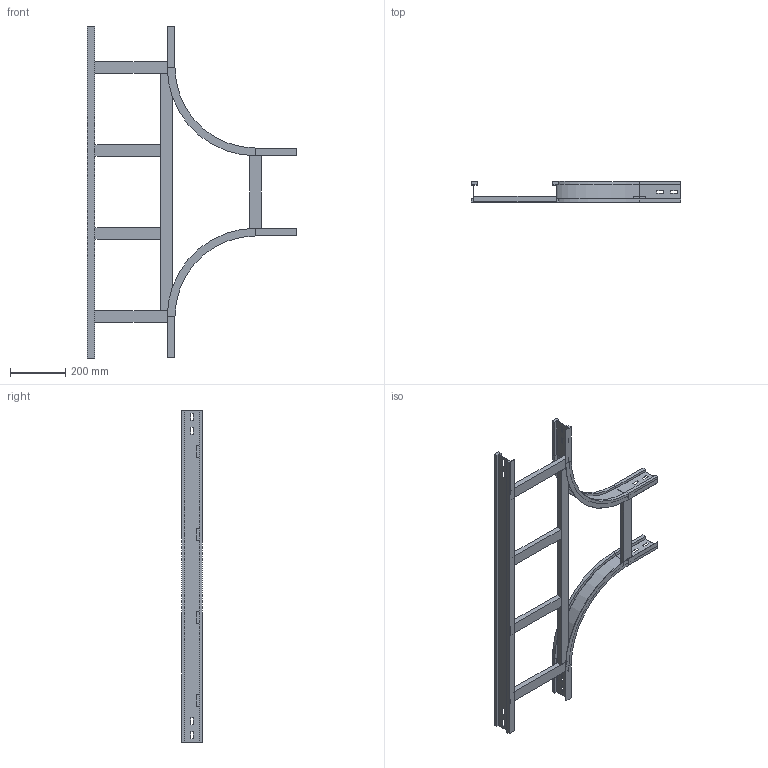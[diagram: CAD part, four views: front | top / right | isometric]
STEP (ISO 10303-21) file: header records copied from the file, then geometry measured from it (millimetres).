
FILE_DESCRIPTION (( 'STEP AP214' ), '1' );
FILE_NAME ('15S3C300.step', '2025-02-21T16:14:44', ( '' ), ( '' ), 'SwSTEP 2.0', 'SolidWorks 2023', '' );
FILE_SCHEMA (( 'AUTOMOTIVE_DESIGN' ));
Length unit declared in the file: millimetre
Products named in the file (6): LONGH.RETT_H75_R300+300; 15S3C300; TRAVERSINO_INTERMEDIO_R300+300; LONGH.INTERNO 90°_H75_R300; TRAVERSINO_300; TRAVERSINO_LONG._R300+300
Assembly tree (9 placements, depth 2):
  15S3C300
    LONGH.INTERNO 90°_H75_R300  x2
    LONGH.RETT_H75_R300+300
    TRAVERSINO_300  x3
    TRAVERSINO_LONG._R300+300
    TRAVERSINO_INTERMEDIO_R300+300  x2
Bounding box: 759 x 75 x 1200 mm (x, y, z)
Volume: 3181940.8 mm3; surface area: 961115.9 mm2
Topology: 9 solids, 9 shells, 174 faces, 420 edges, 264 vertices
Faces by surface type: plane 162, cylinder 12
Entity records: 3187 total; most frequent: CARTESIAN_POINT 526, ORIENTED_EDGE 504, DIRECTION 492, EDGE_CURVE 252, LINE 240, VECTOR 240, VERTEX_POINT 160, AXIS2_PLACEMENT_3D 126
